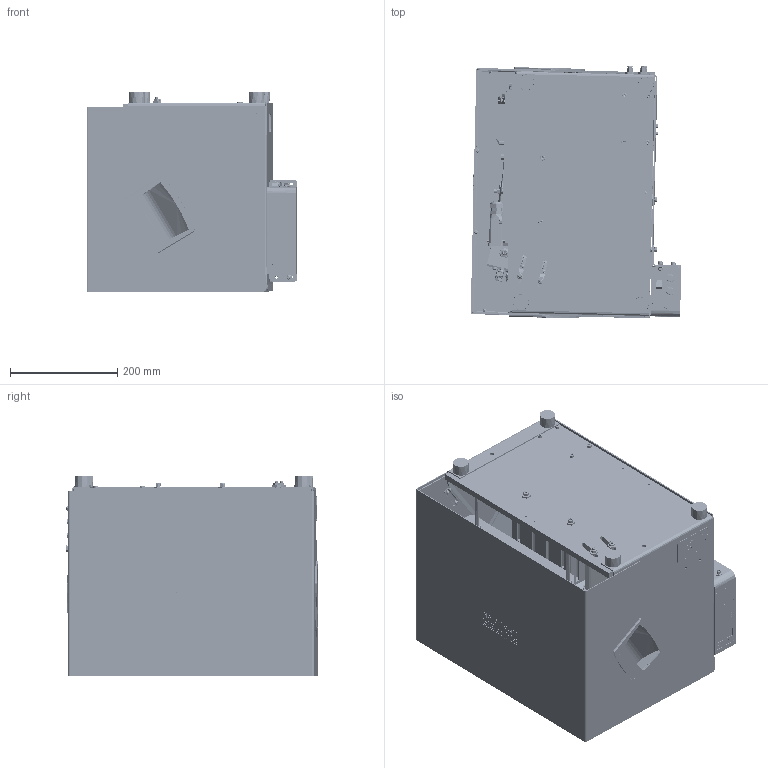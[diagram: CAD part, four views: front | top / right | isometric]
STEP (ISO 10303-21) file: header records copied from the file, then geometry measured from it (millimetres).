
FILE_DESCRIPTION(/* description */ ('© Copyright 2019 – Urheberrechtshinweis Diese CAD-Daten sind urheberrechtlich geschützt. Das Urheberrecht liegt, soweit nicht ausdrücklich anders gekennzeichnet, bei Stöger Automation GmbH. Bitte fragen Sie uns, falls Sie die CAD-Daten vervielfältigen oder','CAx-IF Rec.Pracs.---Representation and Presentation of Product Manufacturing Information (PMI)---4.0---2014-10-13'),/* implementation_level */ '2;1');
FILE_NAME(/* name */ 'H:\00_0 Arbeiten für Marketing\581415\3D_Step_file_STF8010.stp',/* time_stamp */ '2020-05-27T09:11:07+02:00',/* author */ ('Stöger Automation GmbH'),/* organization */ ('Stöger Automation GmbH'),/* preprocessor_version */ 'ST-DEVELOPER v17',/* originating_system */ 'Autodesk Inventor 2018',/* authorisation */ '');
FILE_SCHEMA (('AP242_MANAGED_MODEL_BASED_3D_ENGINEERING_MIM_LF { 1 0 10303 442 1 1 4 }'));
Products named in the file (1): 581415
Bounding box: 392.45 x 471.02 x 372 mm (x, y, z)
Volume: 8721207.8 mm3; surface area: 3146099 mm2
Topology: 21 solids, 192 shells, 11911 faces, 31716 edges, 20743 vertices
Faces by surface type: plane 6086, cylinder 2701, bspline 1478, cone 1013, torus 482, sphere 151
Full cylindrical faces by diameter (mm): 0.5 x1, 0.65 x10, 0.8 x3, 1 x1, 1.2 x2, 1.5 x6, 1.8 x6, 1.9 x4, 2 x3, 2.2 x4, 2.38 x2, 2.42 x2, 2.459 x3, 2.5 x26, 2.65 x2, 2.9 x4, 3 x23, 3.02 x2, 3.03 x2, 3.1 x1, 3.2 x2, 3.242 x32, 3.4 x2, 3.48 x2, 3.5 x1, 3.8 x2, 3.99 x4, 4 x73, 4.019 x12, 4.02 x12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
Entity records: 422706 total; most frequent: CARTESIAN_POINT 122241, ORIENTED_EDGE 62930, DIRECTION 56875, EDGE_CURVE 31465, VERTEX_POINT 20744, AXIS2_PLACEMENT_3D 20124, LINE 16627, VECTOR 16627
